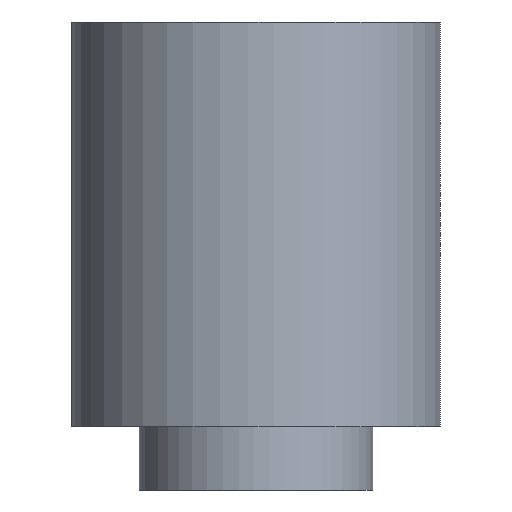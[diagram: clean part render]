
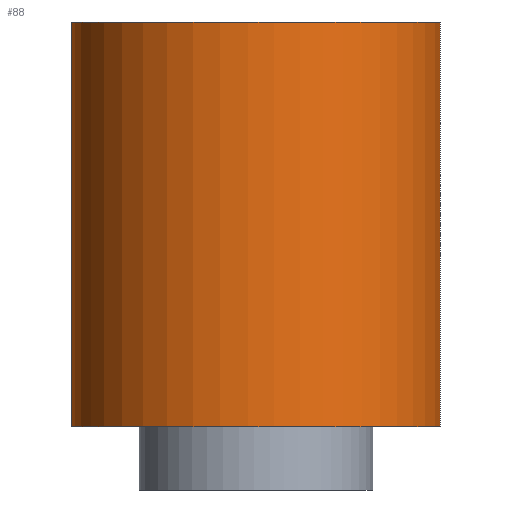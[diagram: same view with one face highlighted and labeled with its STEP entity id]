
A CAD part, front view. The second image highlights one B-rep face of the part: STEP entity #88.
In plain terms, the highlighted free-form (B-spline) face has degree [2, 1] with [7, 2] control points.
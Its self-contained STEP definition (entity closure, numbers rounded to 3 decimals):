
#69 = EDGE_CURVE('',#70,#70,#72,.T.);
#70 = VERTEX_POINT('',#71);
#71 = CARTESIAN_POINT('',(-4.1,0.,0.));
#72 = ( BOUNDED_CURVE() B_SPLINE_CURVE(2,(#73,#74,#75,#76,#77,#78,#79),
.UNSPECIFIED.,.T.,.F.) B_SPLINE_CURVE_WITH_KNOTS((1,2,2,2,2,1),(
    -2.094,0.,2.094,4.189,6.283,
8.378),.UNSPECIFIED.) CURVE() GEOMETRIC_REPRESENTATION_ITEM() 
RATIONAL_B_SPLINE_CURVE((1.,0.5,1.,0.5,1.,0.5,1.)) REPRESENTATION_ITEM(
  '') );
#73 = CARTESIAN_POINT('',(-4.1,0.,0.));
#74 = CARTESIAN_POINT('',(-4.1,7.101,0.));
#75 = CARTESIAN_POINT('',(2.05,3.551,0.));
#76 = CARTESIAN_POINT('',(8.2,0.,0.));
#77 = CARTESIAN_POINT('',(2.05,-3.551,0.));
#78 = CARTESIAN_POINT('',(-4.1,-7.101,0.));
#79 = CARTESIAN_POINT('',(-4.1,0.,0.));
#88 = ADVANCED_FACE('',(#89),#110,.T.);
#89 = FACE_BOUND('',#90,.T.);
#90 = EDGE_LOOP('',(#91,#103,#108,#109));
#91 = ORIENTED_EDGE('',*,*,#92,.T.);
#92 = EDGE_CURVE('',#93,#93,#95,.T.);
#93 = VERTEX_POINT('',#94);
#94 = CARTESIAN_POINT('',(-4.1,0.,9.));
#95 = ( BOUNDED_CURVE() B_SPLINE_CURVE(2,(#96,#97,#98,#99,#100,#101,#102
),.UNSPECIFIED.,.T.,.F.) B_SPLINE_CURVE_WITH_KNOTS((1,2,2,2,2,1),(
    -2.094,0.,2.094,4.189,6.283,
8.378),.UNSPECIFIED.) CURVE() GEOMETRIC_REPRESENTATION_ITEM() 
RATIONAL_B_SPLINE_CURVE((1.,0.5,1.,0.5,1.,0.5,1.)) REPRESENTATION_ITEM(
  '') );
#96 = CARTESIAN_POINT('',(-4.1,0.,9.));
#97 = CARTESIAN_POINT('',(-4.1,7.101,9.));
#98 = CARTESIAN_POINT('',(2.05,3.551,9.));
#99 = CARTESIAN_POINT('',(8.2,0.,9.));
#100 = CARTESIAN_POINT('',(2.05,-3.551,9.));
#101 = CARTESIAN_POINT('',(-4.1,-7.101,9.));
#102 = CARTESIAN_POINT('',(-4.1,0.,9.));
#103 = ORIENTED_EDGE('',*,*,#104,.F.);
#104 = EDGE_CURVE('',#70,#93,#105,.T.);
#105 = B_SPLINE_CURVE_WITH_KNOTS('',1,(#106,#107),.UNSPECIFIED.,.F.,.F.,
  (2,2),(0.,9.),.PIECEWISE_BEZIER_KNOTS.);
#106 = CARTESIAN_POINT('',(-4.1,0.,0.));
#107 = CARTESIAN_POINT('',(-4.1,0.,9.));
#108 = ORIENTED_EDGE('',*,*,#69,.F.);
#109 = ORIENTED_EDGE('',*,*,#104,.T.);
#110 = ( BOUNDED_SURFACE() B_SPLINE_SURFACE(2,1,(
    (#111,#112)
    ,(#113,#114)
    ,(#115,#116)
    ,(#117,#118)
    ,(#119,#120)
    ,(#121,#122)
,(#123,#124
    )),.UNSPECIFIED.,.T.,.F.,.F.) B_SPLINE_SURFACE_WITH_KNOTS((1,2,2,2,2
    ,1),(2,2),(-2.094,0.,2.094,4.189,
    6.283,8.378),(0.,9.),.UNSPECIFIED.) 
GEOMETRIC_REPRESENTATION_ITEM() RATIONAL_B_SPLINE_SURFACE((
    (1.,1.)
    ,(0.5,0.5)
    ,(1.,1.)
    ,(0.5,0.5)
    ,(1.,1.)
    ,(0.5,0.5)
,(1.,1.))) REPRESENTATION_ITEM('') SURFACE() );
#111 = CARTESIAN_POINT('',(-4.1,0.,0.));
#112 = CARTESIAN_POINT('',(-4.1,0.,9.));
#113 = CARTESIAN_POINT('',(-4.1,-7.101,0.));
#114 = CARTESIAN_POINT('',(-4.1,-7.101,9.));
#115 = CARTESIAN_POINT('',(2.05,-3.551,0.));
#116 = CARTESIAN_POINT('',(2.05,-3.551,9.));
#117 = CARTESIAN_POINT('',(8.2,0.,0.));
#118 = CARTESIAN_POINT('',(8.2,0.,9.));
#119 = CARTESIAN_POINT('',(2.05,3.551,0.));
#120 = CARTESIAN_POINT('',(2.05,3.551,9.));
#121 = CARTESIAN_POINT('',(-4.1,7.101,0.));
#122 = CARTESIAN_POINT('',(-4.1,7.101,9.));
#123 = CARTESIAN_POINT('',(-4.1,0.,0.));
#124 = CARTESIAN_POINT('',(-4.1,0.,9.));
